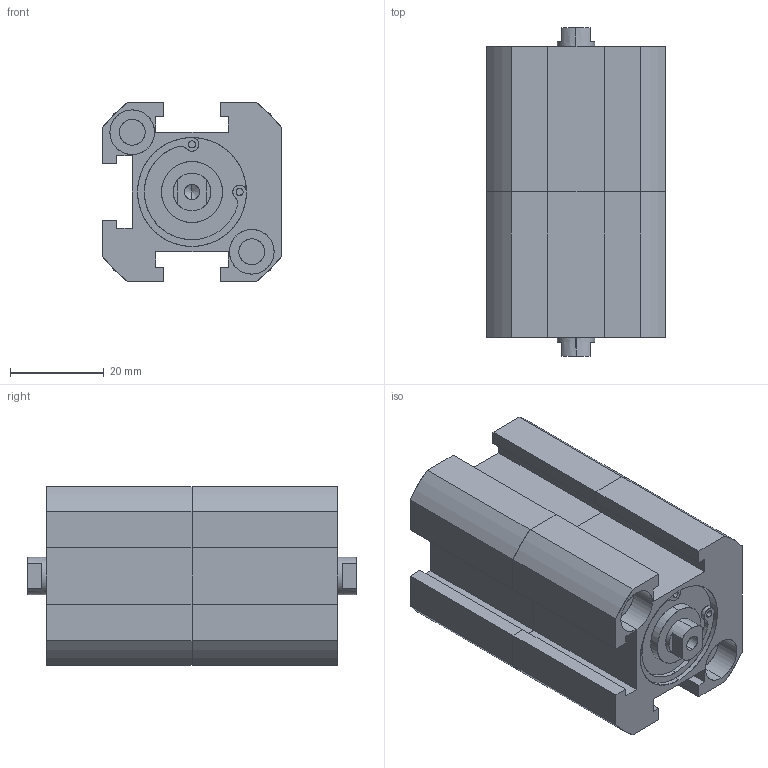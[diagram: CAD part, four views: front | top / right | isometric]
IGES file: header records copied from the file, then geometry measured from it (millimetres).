
Start section: SolidWorks IGES file using analytic representation for surfaces
Global section: file name: C:\Users\Toshiba\Desktop\XCD7-20-10-10.IGS; native system: SolidWorks 2014; preprocessor: SolidWorks 2014; author: Toshiba; date: 160805.093819; units: millimetre
Bounding box: 38 x 70 x 38 mm (x, y, z)
Surface area: 20869.6 mm2 (no closed solid volume)
Topology: 0 solids, 0 shells, 178 faces, 2518 edges, 2506 vertices
Faces by surface type: revolution 90, bspline 88
